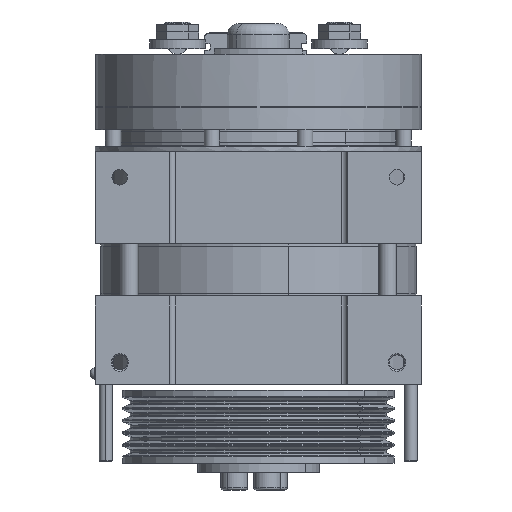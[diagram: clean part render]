
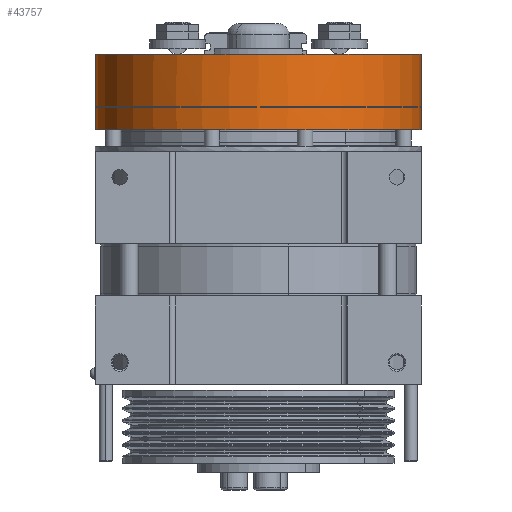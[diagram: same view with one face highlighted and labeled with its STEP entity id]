
A CAD part, front view. The second image highlights one B-rep face of the part: STEP entity #43757.
In plain terms, the highlighted cylindrical face has radius 147 mm (diameter 294 mm), a partial arc.
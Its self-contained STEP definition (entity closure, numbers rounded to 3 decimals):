
#248 = VECTOR ( 'NONE', #19819, 1000. ) ;
#291 = AXIS2_PLACEMENT_3D ( 'NONE', #4988, #18617, #35787 ) ;
#467 = CARTESIAN_POINT ( 'NONE',  ( 140., 140., 48. ) ) ;
#915 = CARTESIAN_POINT ( 'NONE',  ( -7., 140., 48. ) ) ;
#997 = EDGE_CURVE ( 'NONE', #16769, #5120, #14339, .T. ) ;
#1066 = ORIENTED_EDGE ( 'NONE', *, *, #28906, .T. ) ;
#1387 = VERTEX_POINT ( 'NONE', #23984 ) ;
#2713 = ORIENTED_EDGE ( 'NONE', *, *, #28590, .T. ) ;
#2734 = CARTESIAN_POINT ( 'NONE',  ( 138.5, -6.992, 175.07 ) ) ;
#3293 = CARTESIAN_POINT ( 'NONE',  ( 140., 140., 47.5 ) ) ;
#3355 = DIRECTION ( 'NONE',  ( 0., 0., -1. ) ) ;
#3669 = EDGE_CURVE ( 'NONE', #13056, #8786, #29184, .T. ) ;
#3707 = VERTEX_POINT ( 'NONE', #8860 ) ;
#4576 = DIRECTION ( 'NONE',  ( 1., 0., 0. ) ) ;
#4988 = CARTESIAN_POINT ( 'NONE',  ( 140., 140., 47.5 ) ) ;
#5120 = VERTEX_POINT ( 'NONE', #43580 ) ;
#6179 = AXIS2_PLACEMENT_3D ( 'NONE', #10010, #24058, #6851 ) ;
#6524 = CARTESIAN_POINT ( 'NONE',  ( 141.5, -6.992, 175.07 ) ) ;
#6820 = CIRCLE ( 'NONE', #27213, 147. ) ;
#6851 = DIRECTION ( 'NONE',  ( -1., 0., 0. ) ) ;
#6962 = AXIS2_PLACEMENT_3D ( 'NONE', #39036, #25290, #8666 ) ;
#7592 = DIRECTION ( 'NONE',  ( 0., 0., -1. ) ) ;
#7710 = DIRECTION ( 'NONE',  ( 0., 0., -1. ) ) ;
#7792 = ORIENTED_EDGE ( 'NONE', *, *, #14369, .T. ) ;
#7983 = VECTOR ( 'NONE', #7592, 1000. ) ;
#8038 = CARTESIAN_POINT ( 'NONE',  ( -7., 140., 127. ) ) ;
#8307 = DIRECTION ( 'NONE',  ( 0., 0., -1. ) ) ;
#8666 = DIRECTION ( 'NONE',  ( 0., -1., 0. ) ) ;
#8786 = VERTEX_POINT ( 'NONE', #15896 ) ;
#8860 = CARTESIAN_POINT ( 'NONE',  ( 287., 140., 0. ) ) ;
#9396 = ORIENTED_EDGE ( 'NONE', *, *, #33327, .T. ) ;
#9843 = VECTOR ( 'NONE', #12541, 1000. ) ;
#10010 = CARTESIAN_POINT ( 'NONE',  ( 140., 140., 0. ) ) ;
#10411 = EDGE_CURVE ( 'NONE', #1387, #3707, #15221, .T. ) ;
#10536 = AXIS2_PLACEMENT_3D ( 'NONE', #22048, #8307, #4576 ) ;
#10998 = DIRECTION ( 'NONE',  ( -1., 0., 0. ) ) ;
#11361 = CARTESIAN_POINT ( 'NONE',  ( 287., 140., 127. ) ) ;
#12541 = DIRECTION ( 'NONE',  ( 0., 0., -1. ) ) ;
#13056 = VERTEX_POINT ( 'NONE', #28238 ) ;
#13368 = CARTESIAN_POINT ( 'NONE',  ( 287., 140., 48. ) ) ;
#13909 = FACE_OUTER_BOUND ( 'NONE', #43199, .T. ) ;
#14109 = CIRCLE ( 'NONE', #6179, 147. ) ;
#14255 = CARTESIAN_POINT ( 'NONE',  ( -7., 140., 0. ) ) ;
#14293 = ORIENTED_EDGE ( 'NONE', *, *, #10411, .F. ) ;
#14339 = CIRCLE ( 'NONE', #10536, 147. ) ;
#14369 = EDGE_CURVE ( 'NONE', #29785, #17338, #42091, .T. ) ;
#15221 = LINE ( 'NONE', #26509, #9843 ) ;
#15236 = CIRCLE ( 'NONE', #40971, 147. ) ;
#15896 = CARTESIAN_POINT ( 'NONE',  ( -7., 140., 47.5 ) ) ;
#15949 = EDGE_CURVE ( 'NONE', #16769, #24230, #22174, .T. ) ;
#16213 = EDGE_CURVE ( 'NONE', #3707, #16935, #14109, .T. ) ;
#16521 = CARTESIAN_POINT ( 'NONE',  ( 141.5, -6.992, 47.5 ) ) ;
#16595 = VERTEX_POINT ( 'NONE', #30663 ) ;
#16769 = VERTEX_POINT ( 'NONE', #39985 ) ;
#16935 = VERTEX_POINT ( 'NONE', #14255 ) ;
#17242 = DIRECTION ( 'NONE',  ( 0., 0., -1. ) ) ;
#17338 = VERTEX_POINT ( 'NONE', #33681 ) ;
#17972 = LINE ( 'NONE', #2734, #248 ) ;
#18037 = DIRECTION ( 'NONE',  ( 0., 1., 0. ) ) ;
#18253 = ORIENTED_EDGE ( 'NONE', *, *, #3669, .T. ) ;
#18571 = ORIENTED_EDGE ( 'NONE', *, *, #36396, .T. ) ;
#18617 = DIRECTION ( 'NONE',  ( 0., 0., -1. ) ) ;
#19172 = VERTEX_POINT ( 'NONE', #16521 ) ;
#19819 = DIRECTION ( 'NONE',  ( 0., 0., -1. ) ) ;
#20518 = LINE ( 'NONE', #32292, #37615 ) ;
#22048 = CARTESIAN_POINT ( 'NONE',  ( 140., 140., 68. ) ) ;
#22174 = LINE ( 'NONE', #11361, #41966 ) ;
#22219 = ORIENTED_EDGE ( 'NONE', *, *, #16213, .F. ) ;
#22732 = ORIENTED_EDGE ( 'NONE', *, *, #15949, .F. ) ;
#23016 = CYLINDRICAL_SURFACE ( 'NONE', #43793, 147. ) ;
#23984 = CARTESIAN_POINT ( 'NONE',  ( 287., 140., 47.5 ) ) ;
#24058 = DIRECTION ( 'NONE',  ( 0., 0., -1. ) ) ;
#24230 = VERTEX_POINT ( 'NONE', #13368 ) ;
#24290 = EDGE_CURVE ( 'NONE', #16595, #19172, #34329, .T. ) ;
#25290 = DIRECTION ( 'NONE',  ( 0., 0., 1. ) ) ;
#26509 = CARTESIAN_POINT ( 'NONE',  ( 287., 140., 127. ) ) ;
#26756 = LINE ( 'NONE', #8038, #7983 ) ;
#27213 = AXIS2_PLACEMENT_3D ( 'NONE', #3293, #17242, #27265 ) ;
#27265 = DIRECTION ( 'NONE',  ( 0., 1., 0. ) ) ;
#28238 = CARTESIAN_POINT ( 'NONE',  ( 138.5, -6.992, 47.5 ) ) ;
#28590 = EDGE_CURVE ( 'NONE', #17338, #13056, #17972, .T. ) ;
#28906 = EDGE_CURVE ( 'NONE', #16595, #24230, #15236, .T. ) ;
#29184 = CIRCLE ( 'NONE', #291, 147. ) ;
#29533 = VECTOR ( 'NONE', #3355, 1000. ) ;
#29785 = VERTEX_POINT ( 'NONE', #915 ) ;
#30663 = CARTESIAN_POINT ( 'NONE',  ( 141.5, -6.992, 48. ) ) ;
#32292 = CARTESIAN_POINT ( 'NONE',  ( -7., 140., 127. ) ) ;
#32369 = EDGE_CURVE ( 'NONE', #8786, #16935, #26756, .T. ) ;
#32446 = DIRECTION ( 'NONE',  ( 0., 0., -1. ) ) ;
#33327 = EDGE_CURVE ( 'NONE', #1387, #19172, #6820, .T. ) ;
#33681 = CARTESIAN_POINT ( 'NONE',  ( 138.5, -6.992, 48. ) ) ;
#34329 = LINE ( 'NONE', #6524, #29533 ) ;
#35787 = DIRECTION ( 'NONE',  ( 0., -1., 0. ) ) ;
#36396 = EDGE_CURVE ( 'NONE', #5120, #29785, #20518, .T. ) ;
#36908 = ORIENTED_EDGE ( 'NONE', *, *, #24290, .F. ) ;
#37615 = VECTOR ( 'NONE', #32446, 1000. ) ;
#39036 = CARTESIAN_POINT ( 'NONE',  ( 140., 140., 48. ) ) ;
#39900 = ORIENTED_EDGE ( 'NONE', *, *, #32369, .T. ) ;
#39985 = CARTESIAN_POINT ( 'NONE',  ( 287., 140., 68. ) ) ;
#40971 = AXIS2_PLACEMENT_3D ( 'NONE', #467, #41622, #18037 ) ;
#41622 = DIRECTION ( 'NONE',  ( 0., 0., 1. ) ) ;
#41966 = VECTOR ( 'NONE', #42156, 1000. ) ;
#42041 = ORIENTED_EDGE ( 'NONE', *, *, #997, .T. ) ;
#42087 = CARTESIAN_POINT ( 'NONE',  ( 140., 140., 127. ) ) ;
#42091 = CIRCLE ( 'NONE', #6962, 147. ) ;
#42156 = DIRECTION ( 'NONE',  ( 0., 0., -1. ) ) ;
#43199 = EDGE_LOOP ( 'NONE', ( #22732, #42041, #18571, #7792, #2713, #18253, #39900, #22219, #14293, #9396, #36908, #1066 ) ) ;
#43580 = CARTESIAN_POINT ( 'NONE',  ( -7., 140., 68. ) ) ;
#43757 = ADVANCED_FACE ( 'NONE', ( #13909 ), #23016, .T. ) ;
#43793 = AXIS2_PLACEMENT_3D ( 'NONE', #42087, #7710, #10998 ) ;
